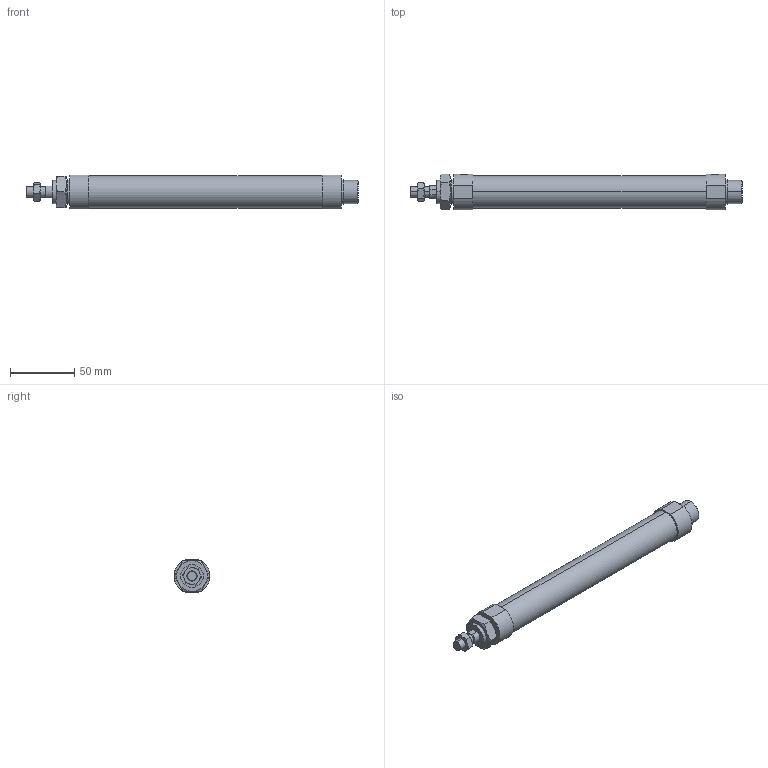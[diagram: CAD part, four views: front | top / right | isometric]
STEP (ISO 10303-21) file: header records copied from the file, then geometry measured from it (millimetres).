
FILE_DESCRIPTION (( 'STEP AP203' ), '1' );
FILE_NAME ('J#2-20-150-N.STEP', '2016-03-08T07:07:03', ( '' ), ( '' ), 'SwSTEP 2.0', 'SolidWorks 2014', '' );
FILE_SCHEMA (( 'CONFIG_CONTROL_DESIGN' ));
Length unit declared in the file: millimetre
Products named in the file (4): J#2-20-150-N; J#2-20-150
Assembly tree (3 placements, depth 2):
  J#2-20-150-N
    J#2-20-150
    (unnamed)
    (unnamed)
Bounding box: 259 x 28 x 26 mm (x, y, z)
Volume: 116567.8 mm3; surface area: 23222.8 mm2
Topology: 3 solids, 3 shells, 92 faces, 198 edges, 122 vertices
Faces by surface type: plane 36, cylinder 26, torus 24, cone 6
Entity records: 3250 total; most frequent: CARTESIAN_POINT 874, DIRECTION 420, ORIENTED_EDGE 396, EDGE_CURVE 198, AXIS2_PLACEMENT_3D 180, VERTEX_POINT 122, EDGE_LOOP 106, FACE_OUTER_BOUND 92
